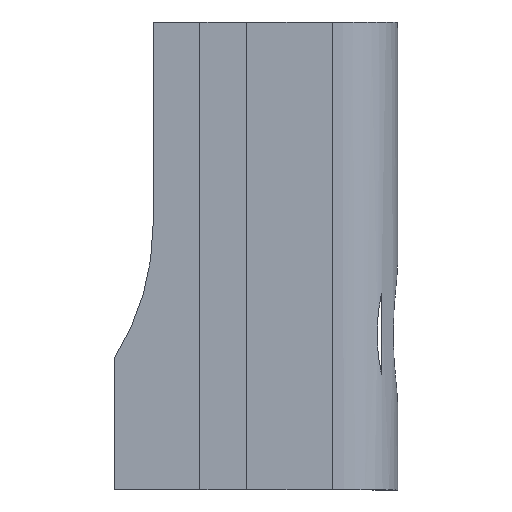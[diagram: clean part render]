
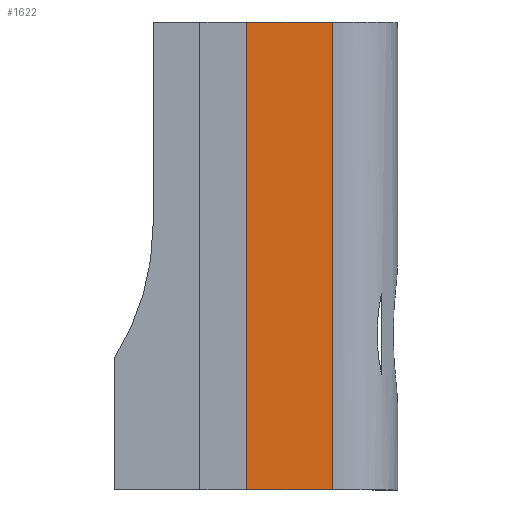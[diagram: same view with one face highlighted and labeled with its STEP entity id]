
A CAD part, top view. The second image highlights one B-rep face of the part: STEP entity #1622.
In plain terms, the highlighted planar face has unit normal (0, 0, 1).
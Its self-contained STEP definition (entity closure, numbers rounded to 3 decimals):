
#44 = CYLINDRICAL_SURFACE('',#45,4.2);
#45 = AXIS2_PLACEMENT_3D('',#46,#47,#48);
#46 = CARTESIAN_POINT('',(39.,46.,6.75));
#47 = DIRECTION('',(-0.,-1.,-0.));
#48 = DIRECTION('',(1.,0.,-0.));
#71 = PLANE('',#72);
#72 = AXIS2_PLACEMENT_3D('',#73,#74,#75);
#73 = CARTESIAN_POINT('',(25.,-10.,2.));
#74 = DIRECTION('',(0.,1.,0.));
#75 = DIRECTION('',(0.,0.,1.));
#141 = VERTEX_POINT('',#142);
#142 = CARTESIAN_POINT('',(39.,20.,10.95));
#157 = PLANE('',#158);
#158 = AXIS2_PLACEMENT_3D('',#159,#160,#161);
#159 = CARTESIAN_POINT('',(25.,20.,2.));
#160 = DIRECTION('',(0.,1.,0.));
#161 = DIRECTION('',(0.,0.,1.));
#173 = EDGE_CURVE('',#141,#174,#176,.T.);
#174 = VERTEX_POINT('',#175);
#175 = CARTESIAN_POINT('',(39.,-10.,10.95));
#176 = SURFACE_CURVE('',#177,(#181,#188),.PCURVE_S1.);
#177 = LINE('',#178,#179);
#178 = CARTESIAN_POINT('',(39.,46.,10.95));
#179 = VECTOR('',#180,1.);
#180 = DIRECTION('',(-0.,-1.,-0.));
#181 = PCURVE('',#44,#182);
#182 = DEFINITIONAL_REPRESENTATION('',(#183),#187);
#183 = LINE('',#184,#185);
#184 = CARTESIAN_POINT('',(1.571,0.));
#185 = VECTOR('',#186,1.);
#186 = DIRECTION('',(0.,1.));
#187 = ( GEOMETRIC_REPRESENTATION_CONTEXT(2) 
PARAMETRIC_REPRESENTATION_CONTEXT() REPRESENTATION_CONTEXT('2D SPACE',''
  ) );
#188 = PCURVE('',#189,#194);
#189 = PLANE('',#190);
#190 = AXIS2_PLACEMENT_3D('',#191,#192,#193);
#191 = CARTESIAN_POINT('',(-43.2,-67.2,10.95));
#192 = DIRECTION('',(0.,0.,1.));
#193 = DIRECTION('',(1.,0.,-0.));
#194 = DEFINITIONAL_REPRESENTATION('',(#195),#199);
#195 = LINE('',#196,#197);
#196 = CARTESIAN_POINT('',(82.2,113.2));
#197 = VECTOR('',#198,1.);
#198 = DIRECTION('',(0.,-1.));
#199 = ( GEOMETRIC_REPRESENTATION_CONTEXT(2) 
PARAMETRIC_REPRESENTATION_CONTEXT() REPRESENTATION_CONTEXT('2D SPACE',''
  ) );
#1021 = VERTEX_POINT('',#1022);
#1022 = CARTESIAN_POINT('',(33.5,-10.,10.95));
#1035 = PLANE('',#1036);
#1036 = AXIS2_PLACEMENT_3D('',#1037,#1038,#1039);
#1037 = CARTESIAN_POINT('',(33.5,-34.,10.85));
#1038 = DIRECTION('',(1.,0.,0.));
#1039 = DIRECTION('',(0.,0.,1.));
#1046 = EDGE_CURVE('',#174,#1021,#1047,.T.);
#1047 = SURFACE_CURVE('',#1048,(#1052,#1058),.PCURVE_S1.);
#1048 = LINE('',#1049,#1050);
#1049 = CARTESIAN_POINT('',(-9.1,-10.,10.95));
#1050 = VECTOR('',#1051,1.);
#1051 = DIRECTION('',(-1.,0.,0.));
#1052 = PCURVE('',#71,#1053);
#1053 = DEFINITIONAL_REPRESENTATION('',(#1054),#1057);
#1054 = B_SPLINE_CURVE_WITH_KNOTS('',1,(#1055,#1056),.UNSPECIFIED.,.F.,
  .F.,(2,2),(-48.1,-34.1),.PIECEWISE_BEZIER_KNOTS.);
#1055 = CARTESIAN_POINT('',(8.95,14.));
#1056 = CARTESIAN_POINT('',(8.95,0.));
#1057 = ( GEOMETRIC_REPRESENTATION_CONTEXT(2) 
PARAMETRIC_REPRESENTATION_CONTEXT() REPRESENTATION_CONTEXT('2D SPACE',''
  ) );
#1058 = PCURVE('',#189,#1059);
#1059 = DEFINITIONAL_REPRESENTATION('',(#1060),#1063);
#1060 = B_SPLINE_CURVE_WITH_KNOTS('',1,(#1061,#1062),.UNSPECIFIED.,.F.,
  .F.,(2,2),(-48.1,-34.1),.PIECEWISE_BEZIER_KNOTS.);
#1061 = CARTESIAN_POINT('',(82.2,57.2));
#1062 = CARTESIAN_POINT('',(68.2,57.2));
#1063 = ( GEOMETRIC_REPRESENTATION_CONTEXT(2) 
PARAMETRIC_REPRESENTATION_CONTEXT() REPRESENTATION_CONTEXT('2D SPACE',''
  ) );
#1360 = VERTEX_POINT('',#1361);
#1361 = CARTESIAN_POINT('',(33.5,20.,10.95));
#1380 = EDGE_CURVE('',#141,#1360,#1381,.T.);
#1381 = SURFACE_CURVE('',#1382,(#1386,#1392),.PCURVE_S1.);
#1382 = LINE('',#1383,#1384);
#1383 = CARTESIAN_POINT('',(-9.1,20.,10.95));
#1384 = VECTOR('',#1385,1.);
#1385 = DIRECTION('',(-1.,0.,0.));
#1386 = PCURVE('',#157,#1387);
#1387 = DEFINITIONAL_REPRESENTATION('',(#1388),#1391);
#1388 = B_SPLINE_CURVE_WITH_KNOTS('',1,(#1389,#1390),.UNSPECIFIED.,.F.,
  .F.,(2,2),(-48.1,-34.1),.PIECEWISE_BEZIER_KNOTS.);
#1389 = CARTESIAN_POINT('',(8.95,14.));
#1390 = CARTESIAN_POINT('',(8.95,0.));
#1391 = ( GEOMETRIC_REPRESENTATION_CONTEXT(2) 
PARAMETRIC_REPRESENTATION_CONTEXT() REPRESENTATION_CONTEXT('2D SPACE',''
  ) );
#1392 = PCURVE('',#189,#1393);
#1393 = DEFINITIONAL_REPRESENTATION('',(#1394),#1397);
#1394 = B_SPLINE_CURVE_WITH_KNOTS('',1,(#1395,#1396),.UNSPECIFIED.,.F.,
  .F.,(2,2),(-48.1,-34.1),.PIECEWISE_BEZIER_KNOTS.);
#1395 = CARTESIAN_POINT('',(82.2,87.2));
#1396 = CARTESIAN_POINT('',(68.2,87.2));
#1397 = ( GEOMETRIC_REPRESENTATION_CONTEXT(2) 
PARAMETRIC_REPRESENTATION_CONTEXT() REPRESENTATION_CONTEXT('2D SPACE',''
  ) );
#1622 = ADVANCED_FACE('',(#1623),#189,.T.);
#1623 = FACE_BOUND('',#1624,.T.);
#1624 = EDGE_LOOP('',(#1625,#1626,#1627,#1628));
#1625 = ORIENTED_EDGE('',*,*,#1046,.F.);
#1626 = ORIENTED_EDGE('',*,*,#173,.F.);
#1627 = ORIENTED_EDGE('',*,*,#1380,.T.);
#1628 = ORIENTED_EDGE('',*,*,#1629,.F.);
#1629 = EDGE_CURVE('',#1021,#1360,#1630,.T.);
#1630 = SURFACE_CURVE('',#1631,(#1635,#1642),.PCURVE_S1.);
#1631 = LINE('',#1632,#1633);
#1632 = CARTESIAN_POINT('',(33.5,-34.,10.95));
#1633 = VECTOR('',#1634,1.);
#1634 = DIRECTION('',(0.,1.,0.));
#1635 = PCURVE('',#189,#1636);
#1636 = DEFINITIONAL_REPRESENTATION('',(#1637),#1641);
#1637 = LINE('',#1638,#1639);
#1638 = CARTESIAN_POINT('',(76.7,33.2));
#1639 = VECTOR('',#1640,1.);
#1640 = DIRECTION('',(0.,1.));
#1641 = ( GEOMETRIC_REPRESENTATION_CONTEXT(2) 
PARAMETRIC_REPRESENTATION_CONTEXT() REPRESENTATION_CONTEXT('2D SPACE',''
  ) );
#1642 = PCURVE('',#1035,#1643);
#1643 = DEFINITIONAL_REPRESENTATION('',(#1644),#1648);
#1644 = LINE('',#1645,#1646);
#1645 = CARTESIAN_POINT('',(0.1,0.));
#1646 = VECTOR('',#1647,1.);
#1647 = DIRECTION('',(0.,-1.));
#1648 = ( GEOMETRIC_REPRESENTATION_CONTEXT(2) 
PARAMETRIC_REPRESENTATION_CONTEXT() REPRESENTATION_CONTEXT('2D SPACE',''
  ) );
